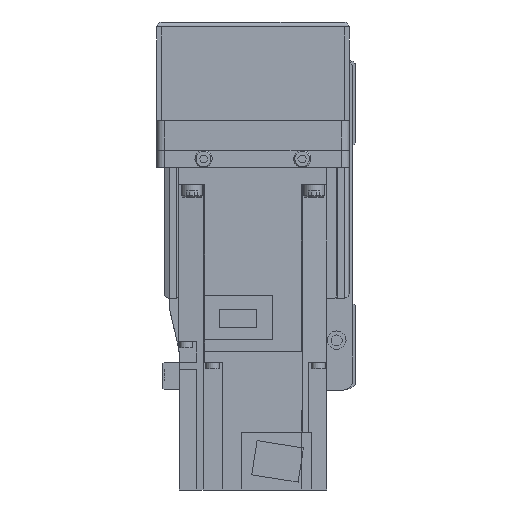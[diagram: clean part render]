
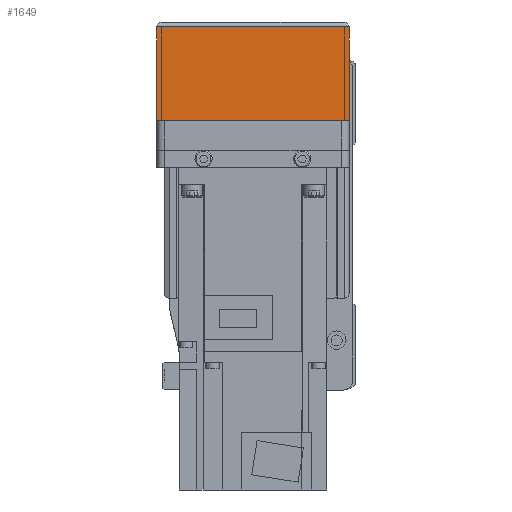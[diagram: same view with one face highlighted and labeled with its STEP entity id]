
A CAD part, left-side view. The second image highlights one B-rep face of the part: STEP entity #1649.
In plain terms, the highlighted planar face has unit normal (-1, 0, 0).
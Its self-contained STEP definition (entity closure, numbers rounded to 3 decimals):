
#1649 = ADVANCED_FACE( '', ( #4127 ), #4128, .F. );
#4127 = FACE_OUTER_BOUND( '', #7682, .T. );
#4128 = PLANE( '', #7683 );
#7682 = EDGE_LOOP( '', ( #12514, #12515, #12516, #12517 ) );
#7683 = AXIS2_PLACEMENT_3D( '', #12518, #12519, #12520 );
#12514 = ORIENTED_EDGE( '', *, *, #21088, .F. );
#12515 = ORIENTED_EDGE( '', *, *, #20061, .F. );
#12516 = ORIENTED_EDGE( '', *, *, #21089, .T. );
#12517 = ORIENTED_EDGE( '', *, *, #21090, .F. );
#12518 = CARTESIAN_POINT( '', ( -158., 36., 7. ) );
#12519 = DIRECTION( '', ( 1., 0., 0. ) );
#12520 = DIRECTION( '', ( 0., 0., -1. ) );
#20061 = EDGE_CURVE( '', #23834, #23836, #23837, .T. );
#21088 = EDGE_CURVE( '', #23836, #23740, #25619, .T. );
#21089 = EDGE_CURVE( '', #23834, #25620, #25621, .T. );
#21090 = EDGE_CURVE( '', #23740, #25620, #25622, .T. );
#23740 = VERTEX_POINT( '', #29238 );
#23834 = VERTEX_POINT( '', #29427 );
#23836 = VERTEX_POINT( '', #29430 );
#23837 = LINE( '', #29431, #29432 );
#25619 = LINE( '', #32232, #32233 );
#25620 = VERTEX_POINT( '', #32234 );
#25621 = LINE( '', #32235, #32236 );
#25622 = LINE( '', #32237, #32238 );
#29238 = CARTESIAN_POINT( '', ( -158., -39., -12.1 ) );
#29427 = CARTESIAN_POINT( '', ( -158., 39., -50. ) );
#29430 = CARTESIAN_POINT( '', ( -158., 39., -12.1 ) );
#29431 = CARTESIAN_POINT( '', ( -158., 39., -50. ) );
#29432 = VECTOR( '', #37480, 1000. );
#32232 = CARTESIAN_POINT( '', ( -158., 50., -12.1 ) );
#32233 = VECTOR( '', #38882, 1000. );
#32234 = CARTESIAN_POINT( '', ( -158., -39., -50. ) );
#32235 = CARTESIAN_POINT( '', ( -158., 40., -50. ) );
#32236 = VECTOR( '', #38883, 1000. );
#32237 = CARTESIAN_POINT( '', ( -158., -39., -12.1 ) );
#32238 = VECTOR( '', #38884, 1000. );
#37480 = DIRECTION( '', ( 0., 0., 1. ) );
#38882 = DIRECTION( '', ( 0., -1., 0. ) );
#38883 = DIRECTION( '', ( 0., -1., 0. ) );
#38884 = DIRECTION( '', ( 0., 0., -1. ) );
